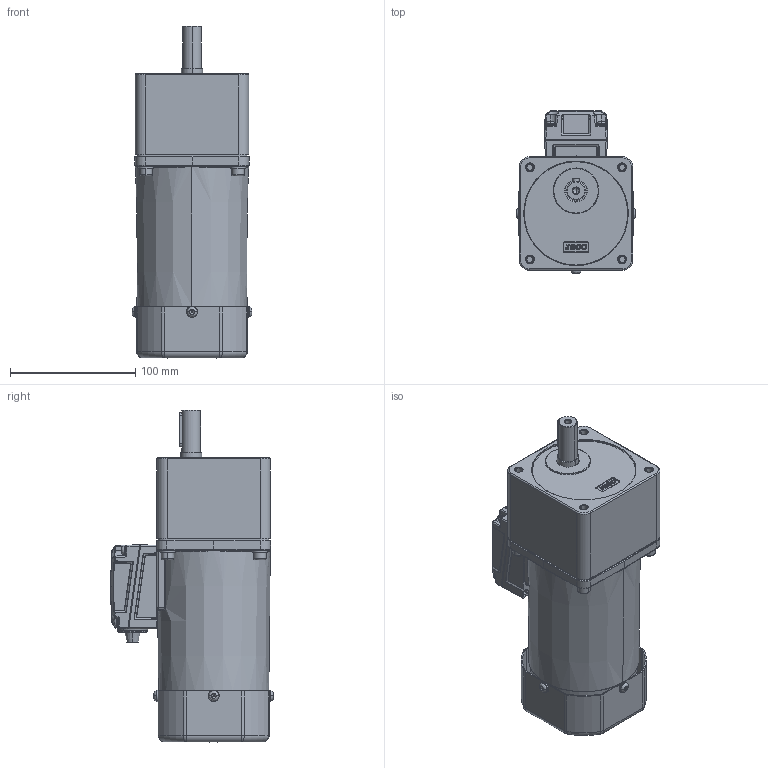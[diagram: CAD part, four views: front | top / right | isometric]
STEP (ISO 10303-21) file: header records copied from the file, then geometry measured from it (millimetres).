
FILE_DESCRIPTION( ('This file contains a STEP AP42 implementation' ,'as created by ZW3D STEP Interface translator.' ,'') ,'2;1' );
FILE_NAME( '120yt01-180.stp' ,'24 712.111530', (''), ('ZWCAD Software Co.'), 'Version 1.0', 'ZW3D to STEP translator', '' );
FILE_SCHEMA(('AUTOMOTIVE_DESIGN { 1 0 10303 214 1 1 1 1 }'));
Length unit declared in the file: millimetre
Products named in the file (10): 0; 120yt01-180; 90YT120G_ASM; 90YT120G_1; 90YT120G_2; YCX_6-200; 3D-JXH-150_300; 90GK-H-180_ASM; 90GK-H-180_1; 90GK-H-180_2
Assembly tree (8 placements, depth 3):
  0
  120yt01-180
    90YT120G_ASM
      90YT120G_1
      90YT120G_2
      YCX_6-200
    3D-JXH-150_300
    90GK-H-180_ASM
      90GK-H-180_1
      90GK-H-180_2
Bounding box: 95.3 x 129.9 x 265 mm (x, y, z)
Volume: 1297397.8 mm3; surface area: 204845.8 mm2
Topology: 6 solids, 15 shells, 2395 faces, 5845 edges, 3552 vertices
Faces by surface type: cylinder 796, plane 701, bspline 655, torus 114, cone 107, sphere 22
Entity records: 119763 total; most frequent: CARTESIAN_POINT 66801, ORIENTED_EDGE 11650, DIRECTION 8920, EDGE_CURVE 5825, VERTEX_POINT 3552, AXIS2_PLACEMENT_3D 3433, EDGE_LOOP 2571, FACE_OUTER_BOUND 2395
